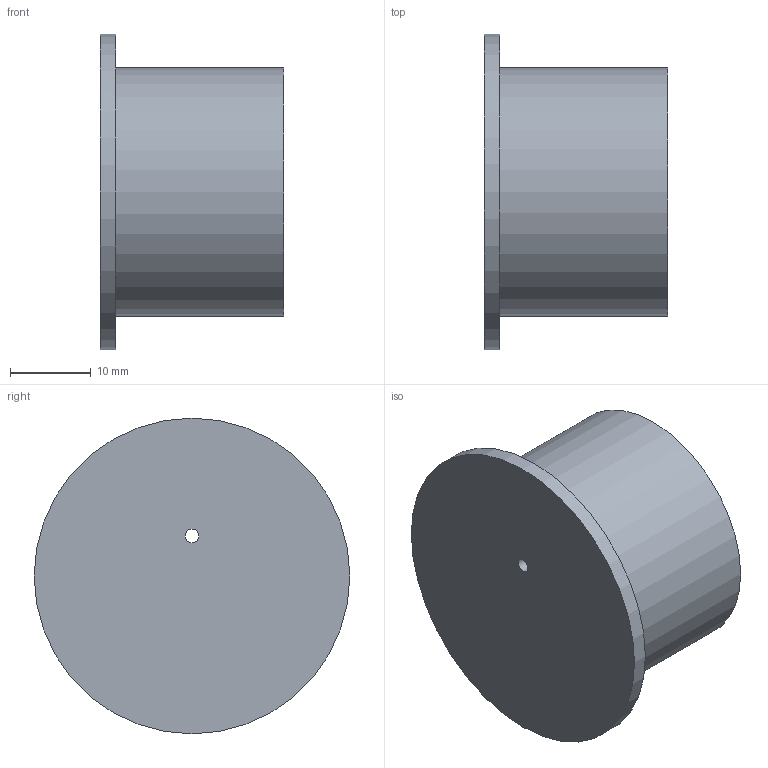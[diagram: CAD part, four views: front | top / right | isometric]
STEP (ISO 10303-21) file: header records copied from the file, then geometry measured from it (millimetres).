
FILE_DESCRIPTION( ('This file contains a STEP AP42 implementation' ,'as created by ZW3D STEP Interface translator.') ,'2;1' );
FILE_NAME( 'OGW-31.stp' ,'26 519. 738 4', (''), ('ZWCAD Software Co.'), 'Version 1.0', 'ZW3D to STEP translator', '' );
FILE_SCHEMA(('AP242_MANAGED_MODEL_BASED_3D_ENGINEERING_MIM_LF { 1 0 10303 442 1 1 4 }'));
Length unit declared in the file: millimetre
Products named in the file (1): 0
Bounding box: 22.7 x 39 x 39 mm (x, y, z)
Volume: 3923.4 mm3; surface area: 6528.7 mm2
Topology: 1 solids, 1 shells, 8 faces, 12 edges, 8 vertices
Faces by surface type: cylinder 4, plane 4
Full cylindrical faces by diameter (mm): 1.7 x1, 29 x1, 30.7 x1, 39 x1
Entity records: 216 total; most frequent: DIRECTION 38, CARTESIAN_POINT 29, ORIENTED_EDGE 24, AXIS2_PLACEMENT_3D 17, EDGE_CURVE 12, EDGE_LOOP 12, VERTEX_POINT 8, CIRCLE 8
